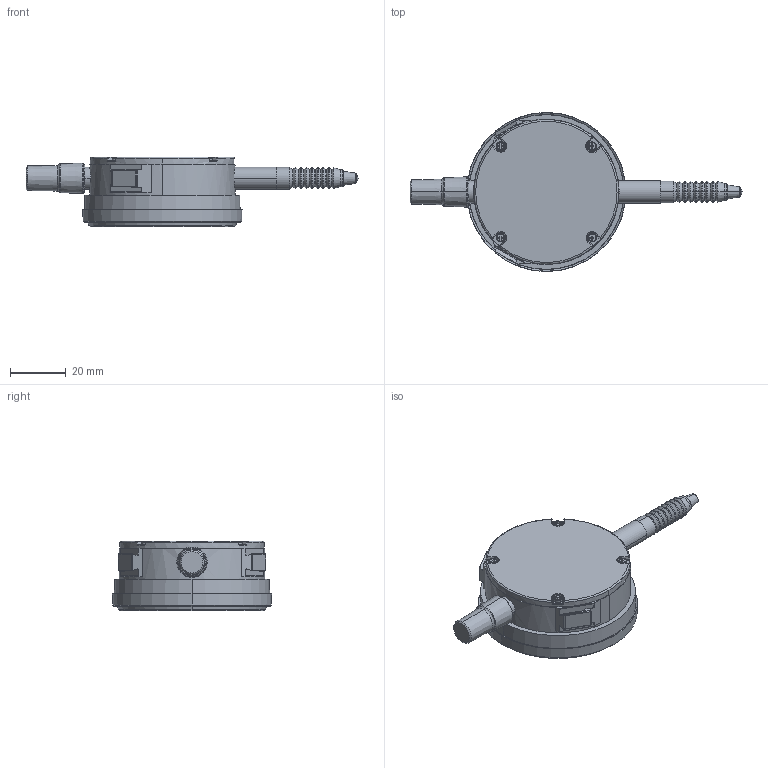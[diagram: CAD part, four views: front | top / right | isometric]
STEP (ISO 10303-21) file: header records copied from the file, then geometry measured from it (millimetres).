
FILE_DESCRIPTION(('Creo Elements/Direct Modeling STEP Export'),'2;1');
FILE_NAME('2929SB-60.stp','2020-03-23T10:55:09',(''),(''),'Creo Elements/Direct Modeling STEP processor for AP214 (Solid Model)','Creo Elements/Direct Modeling 18.1I 13-Aug-2016 (C) Parametric Technology GmbH','');
FILE_SCHEMA(('AUTOMOTIVE_DESIGN { 1 0 10303 214 1 1 1 1 }'));
Length unit declared in the file: millimetre
Products named in the file (2): 2929SB-60
Assembly tree (1 placements, depth 2):
  2929SB-60
    2929SB-60
Bounding box: 118.8 x 56.99 x 25.03 mm (x, y, z)
Volume: 60130.6 mm3; surface area: 11291 mm2
Topology: 1 solids, 1 shells, 347 faces, 817 edges, 488 vertices
Faces by surface type: plane 114, cone 68, cylinder 67, torus 64, bspline 32, sphere 2
Entity records: 14646 total; most frequent: CARTESIAN_POINT 7213, ORIENTED_EDGE 1630, DIRECTION 1448, EDGE_CURVE 815, AXIS2_PLACEMENT_3D 535, VERTEX_POINT 488, VECTOR 378, LINE 378
